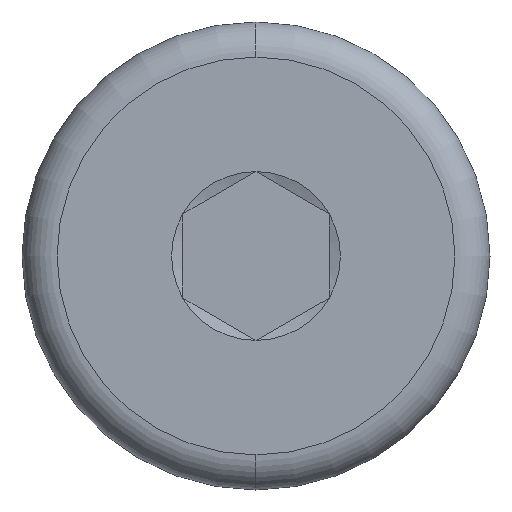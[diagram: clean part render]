
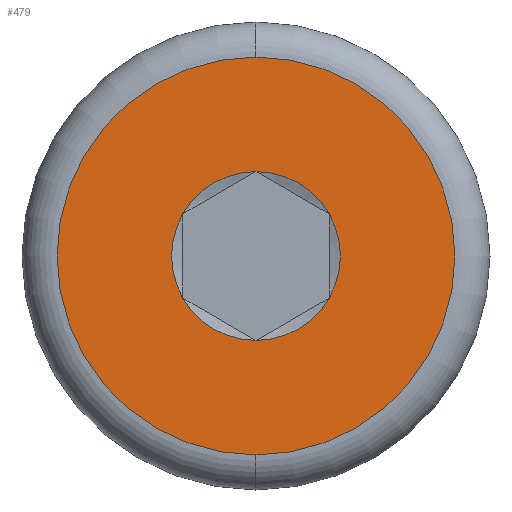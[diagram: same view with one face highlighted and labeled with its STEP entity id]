
A CAD part, left-side view. The second image highlights one B-rep face of the part: STEP entity #479.
In plain terms, the highlighted planar face has unit normal (-1, 0, 0).
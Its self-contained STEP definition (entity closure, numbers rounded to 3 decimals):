
#9 = CARTESIAN_POINT ( 'NONE',  ( 0., 1.25, 0.722 ) ) ;
#12 = ORIENTED_EDGE ( 'NONE', *, *, #13, .F. ) ;
#13 = EDGE_CURVE ( 'NONE', #457, #600, #347, .T. ) ;
#30 = EDGE_CURVE ( 'NONE', #600, #457, #62, .T. ) ;
#32 = DIRECTION ( 'NONE',  ( 0., 0., -1. ) ) ;
#35 = CIRCLE ( 'NONE', #100, 1.443 ) ;
#38 = DIRECTION ( 'NONE',  ( 0., 0., -1. ) ) ;
#45 = CARTESIAN_POINT ( 'NONE',  ( 0., 0., -1.443 ) ) ;
#51 = ORIENTED_EDGE ( 'NONE', *, *, #523, .T. ) ;
#62 = CIRCLE ( 'NONE', #142, 3.4 ) ;
#76 = CIRCLE ( 'NONE', #187, 1.443 ) ;
#94 = VERTEX_POINT ( 'NONE', #595 ) ;
#99 = CIRCLE ( 'NONE', #475, 1.443 ) ;
#100 = AXIS2_PLACEMENT_3D ( 'NONE', #269, #210, #633 ) ;
#109 = EDGE_CURVE ( 'NONE', #498, #94, #99, .T. ) ;
#118 = VERTEX_POINT ( 'NONE', #438 ) ;
#142 = AXIS2_PLACEMENT_3D ( 'NONE', #435, #602, #539 ) ;
#160 = ORIENTED_EDGE ( 'NONE', *, *, #275, .T. ) ;
#166 = AXIS2_PLACEMENT_3D ( 'NONE', #535, #524, #219 ) ;
#187 = AXIS2_PLACEMENT_3D ( 'NONE', #576, #627, #260 ) ;
#189 = CARTESIAN_POINT ( 'NONE',  ( 0., 1.25, -0.722 ) ) ;
#194 = ORIENTED_EDGE ( 'NONE', *, *, #109, .T. ) ;
#198 = EDGE_LOOP ( 'NONE', ( #160, #194, #318, #460, #51, #553 ) ) ;
#199 = CARTESIAN_POINT ( 'NONE',  ( 0., 0., 0. ) ) ;
#200 = CARTESIAN_POINT ( 'NONE',  ( 0., 0., 0. ) ) ;
#210 = DIRECTION ( 'NONE',  ( 1., 0., 0. ) ) ;
#219 = DIRECTION ( 'NONE',  ( 0., 0., -1. ) ) ;
#260 = DIRECTION ( 'NONE',  ( 0., 0., -1. ) ) ;
#269 = CARTESIAN_POINT ( 'NONE',  ( 0., 0., 0. ) ) ;
#275 = EDGE_CURVE ( 'NONE', #343, #498, #295, .T. ) ;
#286 = DIRECTION ( 'NONE',  ( 1., 0., 0. ) ) ;
#295 = CIRCLE ( 'NONE', #508, 1.443 ) ;
#297 = DIRECTION ( 'NONE',  ( 0., 0., 1. ) ) ;
#318 = ORIENTED_EDGE ( 'NONE', *, *, #629, .T. ) ;
#340 = AXIS2_PLACEMENT_3D ( 'NONE', #383, #542, #38 ) ;
#343 = VERTEX_POINT ( 'NONE', #9 ) ;
#347 = CIRCLE ( 'NONE', #495, 3.4 ) ;
#361 = CIRCLE ( 'NONE', #166, 1.443 ) ;
#382 = EDGE_CURVE ( 'NONE', #505, #343, #361, .T. ) ;
#383 = CARTESIAN_POINT ( 'NONE',  ( 0., 0., 0. ) ) ;
#393 = AXIS2_PLACEMENT_3D ( 'NONE', #199, #597, #297 ) ;
#400 = CARTESIAN_POINT ( 'NONE',  ( 0., 0., 0. ) ) ;
#402 = CARTESIAN_POINT ( 'NONE',  ( 0., 0., 1.443 ) ) ;
#412 = ORIENTED_EDGE ( 'NONE', *, *, #30, .F. ) ;
#427 = CARTESIAN_POINT ( 'NONE',  ( 0., 0., -3.4 ) ) ;
#435 = CARTESIAN_POINT ( 'NONE',  ( 0., 0., 0. ) ) ;
#437 = FACE_OUTER_BOUND ( 'NONE', #492, .T. ) ;
#438 = CARTESIAN_POINT ( 'NONE',  ( 0., -1.25, -0.722 ) ) ;
#456 = DIRECTION ( 'NONE',  ( 1., 0., 0. ) ) ;
#457 = VERTEX_POINT ( 'NONE', #427 ) ;
#460 = ORIENTED_EDGE ( 'NONE', *, *, #601, .T. ) ;
#475 = AXIS2_PLACEMENT_3D ( 'NONE', #549, #286, #487 ) ;
#479 = ADVANCED_FACE ( 'NONE', ( #651, #437 ), #664, .T. ) ;
#487 = DIRECTION ( 'NONE',  ( 0., 0., -1. ) ) ;
#492 = EDGE_LOOP ( 'NONE', ( #12, #412 ) ) ;
#493 = DIRECTION ( 'NONE',  ( 1., 0., 0. ) ) ;
#495 = AXIS2_PLACEMENT_3D ( 'NONE', #200, #493, #32 ) ;
#498 = VERTEX_POINT ( 'NONE', #402 ) ;
#505 = VERTEX_POINT ( 'NONE', #189 ) ;
#508 = AXIS2_PLACEMENT_3D ( 'NONE', #400, #456, #674 ) ;
#523 = EDGE_CURVE ( 'NONE', #612, #505, #593, .T. ) ;
#524 = DIRECTION ( 'NONE',  ( 1., 0., 0. ) ) ;
#535 = CARTESIAN_POINT ( 'NONE',  ( 0., 0., 0. ) ) ;
#539 = DIRECTION ( 'NONE',  ( 0., 0., -1. ) ) ;
#542 = DIRECTION ( 'NONE',  ( 1., 0., 0. ) ) ;
#549 = CARTESIAN_POINT ( 'NONE',  ( 0., 0., 0. ) ) ;
#553 = ORIENTED_EDGE ( 'NONE', *, *, #382, .T. ) ;
#576 = CARTESIAN_POINT ( 'NONE',  ( 0., 0., 0. ) ) ;
#593 = CIRCLE ( 'NONE', #340, 1.443 ) ;
#595 = CARTESIAN_POINT ( 'NONE',  ( 0., -1.25, 0.722 ) ) ;
#597 = DIRECTION ( 'NONE',  ( -1., 0., 0. ) ) ;
#600 = VERTEX_POINT ( 'NONE', #673 ) ;
#601 = EDGE_CURVE ( 'NONE', #118, #612, #35, .T. ) ;
#602 = DIRECTION ( 'NONE',  ( 1., 0., 0. ) ) ;
#612 = VERTEX_POINT ( 'NONE', #45 ) ;
#627 = DIRECTION ( 'NONE',  ( 1., 0., 0. ) ) ;
#629 = EDGE_CURVE ( 'NONE', #94, #118, #76, .T. ) ;
#633 = DIRECTION ( 'NONE',  ( 0., 0., -1. ) ) ;
#651 = FACE_BOUND ( 'NONE', #198, .T. ) ;
#664 = PLANE ( 'NONE',  #393 ) ;
#673 = CARTESIAN_POINT ( 'NONE',  ( 0., 0., 3.4 ) ) ;
#674 = DIRECTION ( 'NONE',  ( 0., 0., -1. ) ) ;
